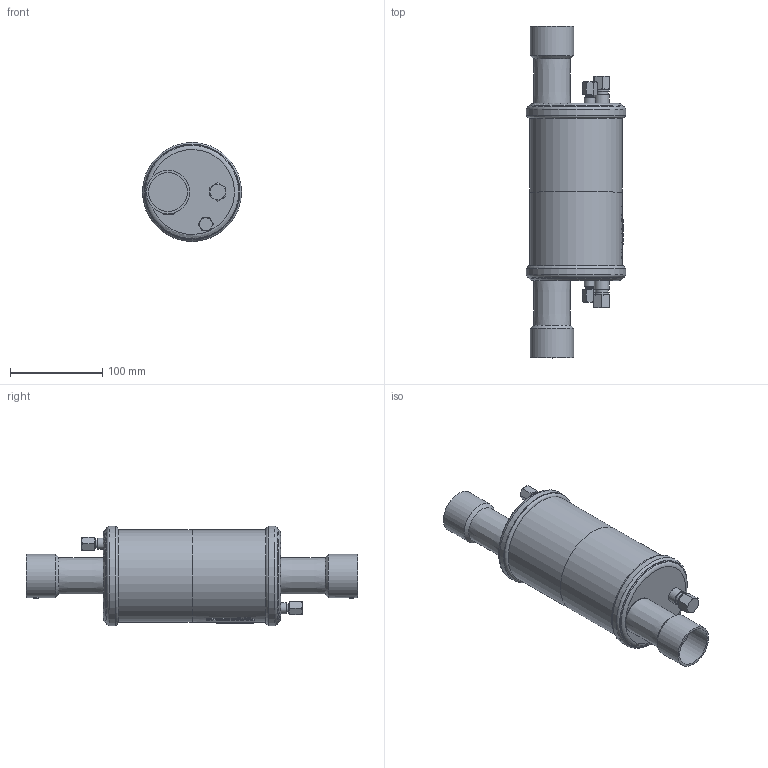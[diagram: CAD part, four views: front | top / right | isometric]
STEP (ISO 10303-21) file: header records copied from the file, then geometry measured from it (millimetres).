
FILE_DESCRIPTION(/* description */ (''),/* implementation_level */ '2;1');
FILE_NAME(/* name */ 'P:\GD\GDX-42\GDX-42.stp',/* time_stamp */ '2017-10-05T08:32:54+02:00',/* author */ ('neufeld'),/* organization */ (''),/* preprocessor_version */ 'ST-DEVELOPER v16.1',/* originating_system */ 'Autodesk Inventor 2016',/* authorisation */ '');
FILE_SCHEMA (('AUTOMOTIVE_DESIGN { 1 0 10303 214 3 1 1 }'));
Products named in the file (2): GDX-42; GDX-42_1
Assembly tree (1 placements, depth 2):
  GDX-42_1
    GDX-42
Bounding box: 107.5 x 360.1 x 107.5 mm (x, y, z)
Volume: 1721170.4 mm3; surface area: 117525.3 mm2
Topology: 1 solids, 1 shells, 1799 faces, 4877 edges, 3234 vertices
Faces by surface type: plane 930, bspline 625, cylinder 170, cone 64, torus 10
Full cylindrical faces by diameter (mm): 8.9 x2, 11.1 x2, 12 x2, 13.8 x2, 15.7 x2, 16 x2, 42.2 x2, 47 x2, 100 x2, 107.5 x2
Entity records: 68292 total; most frequent: CARTESIAN_POINT 26720, ORIENTED_EDGE 9582, DIRECTION 7048, EDGE_CURVE 4791, VERTEX_POINT 3203, AXIS2_PLACEMENT_3D 2431, LINE 2186, VECTOR 2186
